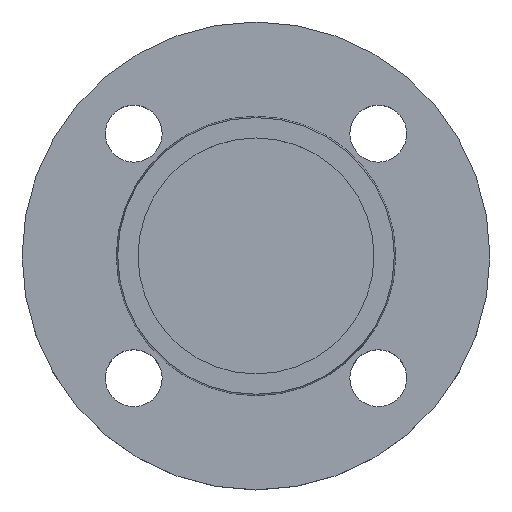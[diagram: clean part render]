
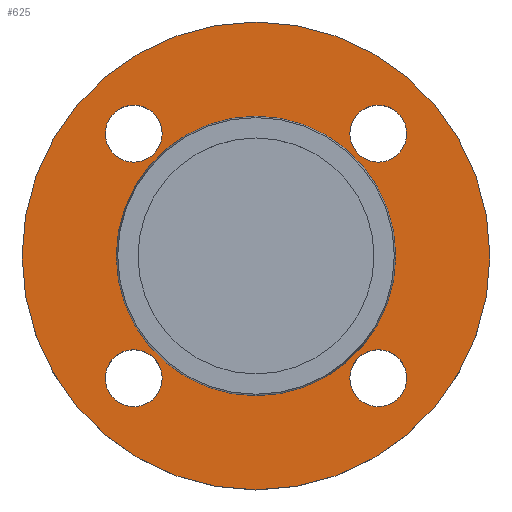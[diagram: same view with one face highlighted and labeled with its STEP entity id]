
A CAD part, top view. The second image highlights one B-rep face of the part: STEP entity #625.
In plain terms, the highlighted planar face has unit normal (0, 0, 1).
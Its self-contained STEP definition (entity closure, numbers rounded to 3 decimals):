
#45 = AXIS2_PLACEMENT_3D ( 'NONE', #664, #215, #398 ) ;
#62 = DIRECTION ( 'NONE',  ( 1., 0., 0. ) ) ;
#63 = DIRECTION ( 'NONE',  ( 0., 0., -1. ) ) ;
#67 = CARTESIAN_POINT ( 'NONE',  ( 30.052, -30.052, -2. ) ) ;
#78 = CIRCLE ( 'NONE', #501, 7. ) ;
#83 = EDGE_CURVE ( 'NONE', #653, #671, #468, .T. ) ;
#105 = CARTESIAN_POINT ( 'NONE',  ( -37.052, -30.052, -2. ) ) ;
#109 = CARTESIAN_POINT ( 'NONE',  ( 23.052, 30.052, -2. ) ) ;
#116 = EDGE_CURVE ( 'NONE', #397, #571, #443, .T. ) ;
#150 = CIRCLE ( 'NONE', #278, 7. ) ;
#154 = CARTESIAN_POINT ( 'NONE',  ( 57.5, 0., -2. ) ) ;
#157 = CARTESIAN_POINT ( 'NONE',  ( -23.052, -30.052, -2. ) ) ;
#162 = CIRCLE ( 'NONE', #45, 7. ) ;
#164 = CARTESIAN_POINT ( 'NONE',  ( -57.5, 0., -2. ) ) ;
#173 = DIRECTION ( 'NONE',  ( 1., 0., 0. ) ) ;
#174 = DIRECTION ( 'NONE',  ( 0., 0., 1. ) ) ;
#176 = CARTESIAN_POINT ( 'NONE',  ( 34.353, 0., -2. ) ) ;
#178 = PLANE ( 'NONE',  #490 ) ;
#179 = FACE_OUTER_BOUND ( 'NONE', #396, .T. ) ;
#180 = FACE_BOUND ( 'NONE', #635, .T. ) ;
#182 = FACE_BOUND ( 'NONE', #638, .T. ) ;
#186 = FACE_BOUND ( 'NONE', #369, .T. ) ;
#187 = FACE_BOUND ( 'NONE', #639, .T. ) ;
#188 = FACE_BOUND ( 'NONE', #648, .T. ) ;
#189 = DIRECTION ( 'NONE',  ( -1., 0., 0. ) ) ;
#190 = DIRECTION ( 'NONE',  ( 0., 0., -1. ) ) ;
#191 = CARTESIAN_POINT ( 'NONE',  ( 0., 0., -2. ) ) ;
#192 = CARTESIAN_POINT ( 'NONE',  ( 37.052, 30.052, -2. ) ) ;
#205 = DIRECTION ( 'NONE',  ( 1., 0., 0. ) ) ;
#207 = CARTESIAN_POINT ( 'NONE',  ( 0., 0., -2. ) ) ;
#215 = DIRECTION ( 'NONE',  ( 0., 0., -1. ) ) ;
#216 = EDGE_CURVE ( 'NONE', #616, #691, #783, .T. ) ;
#217 = AXIS2_PLACEMENT_3D ( 'NONE', #763, #772, #773 ) ;
#221 = DIRECTION ( 'NONE',  ( 0., 0., -1. ) ) ;
#231 = CIRCLE ( 'NONE', #682, 57.5 ) ;
#243 = DIRECTION ( 'NONE',  ( -1., 0., 0. ) ) ;
#244 = AXIS2_PLACEMENT_3D ( 'NONE', #277, #276, #280 ) ;
#251 = EDGE_CURVE ( 'NONE', #691, #616, #162, .T. ) ;
#257 = CARTESIAN_POINT ( 'NONE',  ( 30.052, -30.052, -2. ) ) ;
#264 = DIRECTION ( 'NONE',  ( 0., 0., -1. ) ) ;
#265 = CIRCLE ( 'NONE', #325, 7. ) ;
#270 = DIRECTION ( 'NONE',  ( 1., 0., 0. ) ) ;
#276 = DIRECTION ( 'NONE',  ( 0., 0., -1. ) ) ;
#277 = CARTESIAN_POINT ( 'NONE',  ( 0., 0., -2. ) ) ;
#278 = AXIS2_PLACEMENT_3D ( 'NONE', #306, #309, #311 ) ;
#279 = CARTESIAN_POINT ( 'NONE',  ( -37.052, 30.052, -2. ) ) ;
#280 = DIRECTION ( 'NONE',  ( -1., 0., 0. ) ) ;
#290 = AXIS2_PLACEMENT_3D ( 'NONE', #686, #704, #723 ) ;
#306 = CARTESIAN_POINT ( 'NONE',  ( -30.052, -30.052, -2. ) ) ;
#309 = DIRECTION ( 'NONE',  ( 0., 0., -1. ) ) ;
#311 = DIRECTION ( 'NONE',  ( 1., 0., 0. ) ) ;
#312 = AXIS2_PLACEMENT_3D ( 'NONE', #808, #809, #810 ) ;
#317 = EDGE_CURVE ( 'NONE', #671, #653, #231, .T. ) ;
#321 = EDGE_CURVE ( 'NONE', #414, #367, #631, .T. ) ;
#325 = AXIS2_PLACEMENT_3D ( 'NONE', #67, #63, #62 ) ;
#337 = EDGE_CURVE ( 'NONE', #657, #695, #150, .T. ) ;
#366 = AXIS2_PLACEMENT_3D ( 'NONE', #191, #190, #189 ) ;
#367 = VERTEX_POINT ( 'NONE', #430 ) ;
#369 = EDGE_LOOP ( 'NONE', ( #651, #515 ) ) ;
#377 = VERTEX_POINT ( 'NONE', #453 ) ;
#386 = VERTEX_POINT ( 'NONE', #497 ) ;
#388 = CARTESIAN_POINT ( 'NONE',  ( -30.052, -30.052, -2. ) ) ;
#396 = EDGE_LOOP ( 'NONE', ( #529, #531 ) ) ;
#397 = VERTEX_POINT ( 'NONE', #503 ) ;
#398 = DIRECTION ( 'NONE',  ( 1., 0., 0. ) ) ;
#414 = VERTEX_POINT ( 'NONE', #594 ) ;
#426 = EDGE_CURVE ( 'NONE', #571, #397, #724, .T. ) ;
#430 = CARTESIAN_POINT ( 'NONE',  ( 23.052, -30.052, -2. ) ) ;
#443 = CIRCLE ( 'NONE', #217, 7. ) ;
#453 = CARTESIAN_POINT ( 'NONE',  ( 34.353, 0., -2. ) ) ;
#461 = DIRECTION ( 'NONE',  ( 0., 0., -1. ) ) ;
#468 = CIRCLE ( 'NONE', #614, 57.5 ) ;
#490 = AXIS2_PLACEMENT_3D ( 'NONE', #176, #174, #173 ) ;
#497 = CARTESIAN_POINT ( 'NONE',  ( -34.353, 0., -2. ) ) ;
#501 = AXIS2_PLACEMENT_3D ( 'NONE', #388, #461, #205 ) ;
#503 = CARTESIAN_POINT ( 'NONE',  ( -23.052, 30.052, -2. ) ) ;
#512 = ORIENTED_EDGE ( 'NONE', *, *, #321, .T. ) ;
#513 = ORIENTED_EDGE ( 'NONE', *, *, #768, .T. ) ;
#514 = ORIENTED_EDGE ( 'NONE', *, *, #337, .T. ) ;
#515 = ORIENTED_EDGE ( 'NONE', *, *, #426, .T. ) ;
#518 = ORIENTED_EDGE ( 'NONE', *, *, #216, .T. ) ;
#519 = ORIENTED_EDGE ( 'NONE', *, *, #251, .T. ) ;
#522 = ORIENTED_EDGE ( 'NONE', *, *, #623, .T. ) ;
#527 = ORIENTED_EDGE ( 'NONE', *, *, #567, .T. ) ;
#529 = ORIENTED_EDGE ( 'NONE', *, *, #317, .F. ) ;
#531 = ORIENTED_EDGE ( 'NONE', *, *, #83, .F. ) ;
#567 = EDGE_CURVE ( 'NONE', #377, #386, #681, .T. ) ;
#571 = VERTEX_POINT ( 'NONE', #279 ) ;
#594 = CARTESIAN_POINT ( 'NONE',  ( 37.052, -30.052, -2. ) ) ;
#607 = EDGE_CURVE ( 'NONE', #695, #657, #78, .T. ) ;
#614 = AXIS2_PLACEMENT_3D ( 'NONE', #747, #749, #750 ) ;
#616 = VERTEX_POINT ( 'NONE', #192 ) ;
#623 = EDGE_CURVE ( 'NONE', #386, #377, #666, .T. ) ;
#625 = ADVANCED_FACE ( 'NONE', ( #188, #187, #186, #182, #180, #179 ), #178, .T. ) ;
#631 = CIRCLE ( 'NONE', #755, 7. ) ;
#635 = EDGE_LOOP ( 'NONE', ( #522, #527 ) ) ;
#638 = EDGE_LOOP ( 'NONE', ( #518, #519 ) ) ;
#639 = EDGE_LOOP ( 'NONE', ( #514, #670 ) ) ;
#648 = EDGE_LOOP ( 'NONE', ( #512, #513 ) ) ;
#651 = ORIENTED_EDGE ( 'NONE', *, *, #116, .T. ) ;
#653 = VERTEX_POINT ( 'NONE', #164 ) ;
#657 = VERTEX_POINT ( 'NONE', #157 ) ;
#664 = CARTESIAN_POINT ( 'NONE',  ( 30.052, 30.052, -2. ) ) ;
#666 = CIRCLE ( 'NONE', #366, 34.353 ) ;
#670 = ORIENTED_EDGE ( 'NONE', *, *, #607, .T. ) ;
#671 = VERTEX_POINT ( 'NONE', #154 ) ;
#681 = CIRCLE ( 'NONE', #244, 34.353 ) ;
#682 = AXIS2_PLACEMENT_3D ( 'NONE', #207, #221, #243 ) ;
#686 = CARTESIAN_POINT ( 'NONE',  ( -30.052, 30.052, -2. ) ) ;
#691 = VERTEX_POINT ( 'NONE', #109 ) ;
#695 = VERTEX_POINT ( 'NONE', #105 ) ;
#704 = DIRECTION ( 'NONE',  ( 0., 0., -1. ) ) ;
#723 = DIRECTION ( 'NONE',  ( 1., 0., 0. ) ) ;
#724 = CIRCLE ( 'NONE', #290, 7. ) ;
#747 = CARTESIAN_POINT ( 'NONE',  ( 0., 0., -2. ) ) ;
#749 = DIRECTION ( 'NONE',  ( 0., 0., -1. ) ) ;
#750 = DIRECTION ( 'NONE',  ( -1., 0., 0. ) ) ;
#755 = AXIS2_PLACEMENT_3D ( 'NONE', #257, #264, #270 ) ;
#763 = CARTESIAN_POINT ( 'NONE',  ( -30.052, 30.052, -2. ) ) ;
#768 = EDGE_CURVE ( 'NONE', #367, #414, #265, .T. ) ;
#772 = DIRECTION ( 'NONE',  ( 0., 0., -1. ) ) ;
#773 = DIRECTION ( 'NONE',  ( 1., 0., 0. ) ) ;
#783 = CIRCLE ( 'NONE', #312, 7. ) ;
#808 = CARTESIAN_POINT ( 'NONE',  ( 30.052, 30.052, -2. ) ) ;
#809 = DIRECTION ( 'NONE',  ( 0., 0., -1. ) ) ;
#810 = DIRECTION ( 'NONE',  ( 1., 0., 0. ) ) ;
